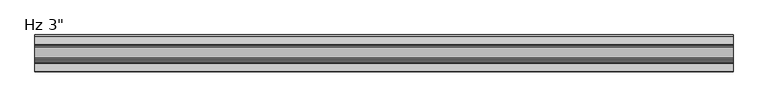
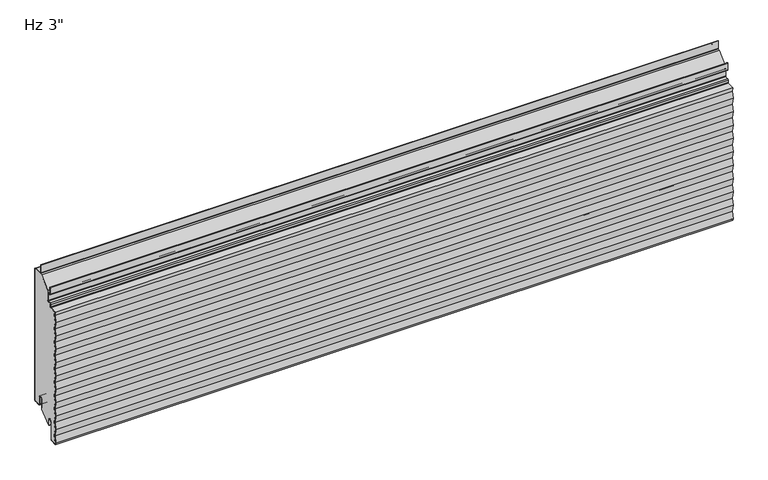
"""IFC4 building model written with IfcOpenShell, lengths in millimetres: plate geometry."""

from ifc_helpers import new_model, si_unit, point, frame, frame_2d, origin, place, context, project, spatial, polyline, circle_curve, ellipse_curve, trimmed, segment, composite_curve, outline, extrude, source, transform, mapped, element, save
from ifc_brep_helpers import plane_surface, cylinder_surface, revolved_surface, extruded_surface, advanced_brep


def plate_805d2d42(model_context):
    return source(origin(), model_context, "Body", "SolidModel", [
        extrude(outline(composite_curve([segment(trimmed(circle_curve(frame_2d((-21.43125, 19.05)), 4.96875), [point((-16.4625, 19.05))], [point((-26.4, 19.05))], True, "CARTESIAN"), True, "CONTINUOUS"), segment(polyline([(-26.4, 19.05), (-26.4, -3.1323422), (-49.2157227, -23.01875), (-50.8, -23.01875), (-50.8, -13.5080174), (-51.59375, -13.5080174), (-51.3875, -11.9205174)]), True, "CONTINUOUS"), segment(trimmed(circle_curve(frame_2d((-56.35625, -11.9205174)), 4.96875), [point((-51.3875, -11.9205174))], [point((-61.325, -11.9205174))], True, "CARTESIAN"), True, "CONTINUOUS"), segment(polyline([(-61.325, -11.9205174), (-61.325, -50.1038221)]), True, "CONTINUOUS"), segment(trimmed(circle_curve(frame_2d((-62.70625, -50.1038221)), 1.38125), [point((-61.325, -50.1038221))], [point((-62.633961, -51.4831791))], False, "CARTESIAN"), True, "CONTINUOUS"), segment(polyline([(-62.633961, -51.4831791), (-73.746461, -52.0655606)]), True, "CONTINUOUS"), segment(trimmed(circle_curve(frame_2d((-73.81875, -50.6862035)), 1.38125), [point((-73.746461, -52.0655606))], [point((-75.1310452, -51.1171708))], False, "CARTESIAN"), True, "CONTINUOUS"), segment(polyline([(-75.1310452, -51.1171708), (-75.4936034, -48.8511825), (-73.0552034, -33.6111825), (-75.4936034, -18.3711825), (-73.0552034, -3.1311825), (-75.4936034, 12.1088175), (-73.0552034, 27.3488175), (-75.4936034, 42.5888175), (-73.0552034, 57.8288175), (-75.4936034, 73.0688175), (-73.0552034, 88.3088175), (-75.4936034, 103.5488175), (-73.0552034, 118.7888175), (-75.4936034, 134.0288175), (-73.0552034, 149.2688175), (-75.4936034, 164.5088175), (-73.0552034, 179.7488175), (-75.4936034, 194.9888175), (-73.0552034, 210.2288175), (-75.4936034, 225.4688175), (-73.0552034, 240.7088175), (-74.1475009, 247.5356771), (-60.1895807, 248.2671807)]), True, "CONTINUOUS"), segment(trimmed(circle_curve(frame_2d((-60.325, 250.8511347)), 2.5875), [point((-60.1895807, 248.2671807))], [point((-57.7375, 250.8511347))], True, "CARTESIAN"), True, "CONTINUOUS"), segment(polyline([(-57.7375, 250.8511347), (-57.7375, 255.4824411)]), True, "CONTINUOUS"), segment(trimmed(circle_curve(frame_2d((-56.35625, 255.4824411)), 1.38125), [point((-57.7375, 255.4824411))], [point((-56.428539, 256.8617981))], False, "CARTESIAN"), True, "CONTINUOUS"), segment(polyline([(-56.428539, 256.8617981), (-50.6645807, 257.1638744)]), True, "CONTINUOUS"), segment(trimmed(circle_curve(frame_2d((-50.8, 259.7478283)), 2.5875), [point((-50.6645807, 257.1638744))], [point((-48.2125, 259.7478283))], True, "CARTESIAN"), True, "CONTINUOUS"), segment(polyline([(-48.2125, 259.7478283), (-48.2125, 282.1892934), (-24.9057308, 303.00625), (-2.38125, 303.00625)]), True, "CONTINUOUS"), segment(trimmed(circle_curve(frame_2d((-2.38125, 301.625)), 1.38125), [point((-2.38125, 303.00625))], [point((-1.0, 301.625))], False, "CARTESIAN"), True, "CONTINUOUS"), segment(polyline([(-1.0, 301.625), (-1.0, 3.175)]), True, "CONTINUOUS"), segment(trimmed(circle_curve(frame_2d((-2.38125, 3.175)), 1.38125), [point((-1.0, 3.175))], [point((-2.38125, 1.79375))], False, "CARTESIAN"), True, "CONTINUOUS"), segment(polyline([(-2.38125, 1.79375), (-15.08125, 1.79375)]), True, "CONTINUOUS"), segment(trimmed(circle_curve(frame_2d((-15.08125, 3.175)), 1.38125), [point((-15.08125, 1.79375))], [point((-16.4625, 3.175))], False, "CARTESIAN"), True, "CONTINUOUS"), segment(polyline([(-16.4625, 3.175), (-16.4625, 19.05)]), True, "CONTINUOUS")], self_intersect=False)), frame((-730.0, 0.0, 0.0), z_axis=(1.0, 0.0, 0.0), x_axis=(0.0, 1.0, 0.0)), (0.0, 0.0, 1.0), 1460.0),
        extrude(outline(composite_curve([segment(polyline([(-25.4, 0.79375), (-26.4, 0.79375), (-26.4, 19.05)]), True, "CONTINUOUS"), segment(trimmed(circle_curve(frame_2d((-21.43125, 19.05)), 4.96875), [point((-26.4, 19.05))], [point((-16.4625, 19.05))], False, "CARTESIAN"), True, "CONTINUOUS"), segment(polyline([(-16.4625, 19.05), (-16.4625, 3.175)]), True, "CONTINUOUS"), segment(trimmed(circle_curve(frame_2d((-15.08125, 3.175)), 1.38125), [point((-16.4625, 3.175))], [point((-15.08125, 1.79375))], True, "CARTESIAN"), True, "CONTINUOUS"), segment(polyline([(-15.08125, 1.79375), (-2.38125, 1.79375)]), True, "CONTINUOUS"), segment(trimmed(circle_curve(frame_2d((-2.38125, 3.175)), 1.38125), [point((-2.38125, 1.79375))], [point((-1.0, 3.175))], True, "CARTESIAN"), True, "CONTINUOUS"), segment(polyline([(-1.0, 3.175), (-1.0, 301.625)]), True, "CONTINUOUS"), segment(trimmed(circle_curve(frame_2d((-2.38125, 301.625)), 1.38125), [point((-1.0, 301.625))], [point((-2.38125, 303.00625))], True, "CARTESIAN"), True, "CONTINUOUS"), segment(polyline([(-2.38125, 303.00625), (-19.446875, 303.00625)]), True, "CONTINUOUS"), segment(trimmed(circle_curve(frame_2d((-19.446875, 305.59375)), 2.5875), [point((-19.446875, 303.00625))], [point((-22.034375, 305.59375))], False, "CARTESIAN"), True, "CONTINUOUS"), segment(polyline([(-22.034375, 305.59375), (-22.034375, 323.05625), (-21.034375, 323.05625), (-21.034375, 305.59375)]), True, "CONTINUOUS"), segment(trimmed(circle_curve(frame_2d((-19.446875, 305.59375)), 1.5875), [point((-21.034375, 305.59375))], [point((-19.446875, 304.00625))], True, "CARTESIAN"), True, "CONTINUOUS"), segment(polyline([(-19.446875, 304.00625), (-2.38125, 304.00625)]), True, "CONTINUOUS"), segment(trimmed(circle_curve(frame_2d((-2.38125, 301.625)), 2.38125), [point((-2.38125, 304.00625))], [point((0.0, 301.625))], False, "CARTESIAN"), True, "CONTINUOUS"), segment(polyline([(0.0, 301.625), (0.0, 3.175)]), True, "CONTINUOUS"), segment(trimmed(circle_curve(frame_2d((-2.38125, 3.175)), 2.38125), [point((0.0, 3.175))], [point((-2.38125, 0.79375))], False, "CARTESIAN"), True, "CONTINUOUS"), segment(polyline([(-2.38125, 0.79375), (-15.08125, 0.79375)]), True, "CONTINUOUS"), segment(trimmed(circle_curve(frame_2d((-15.08125, 3.175)), 2.38125), [point((-15.08125, 0.79375))], [point((-17.4625, 3.175))], False, "CARTESIAN"), True, "CONTINUOUS"), segment(polyline([(-17.4625, 3.175), (-17.4625, 19.05)]), True, "CONTINUOUS"), segment(trimmed(circle_curve(frame_2d((-21.43125, 19.05)), 3.96875), [point((-17.4625, 19.05))], [point((-25.4, 19.05))], True, "CARTESIAN"), True, "CONTINUOUS"), segment(polyline([(-25.4, 19.05), (-25.4, 0.79375)]), True, "CONTINUOUS")], self_intersect=False)), frame((-730.0, 0.0, 0.0), z_axis=(1.0, 0.0, 0.0), x_axis=(0.0, 1.0, 0.0)), (0.0, 0.0, 1.0), 1460.0),
        advanced_brep(
        [(-730.0, -50.8, -23.2314549), (-730.0, -52.3875, -23.2314549), (-730.0, -52.3875, -11.9205174), (-730.0, -60.325, -11.9205174), (-730.0, -60.325, -50.1038221), (-730.0, -62.581625, -52.4818086), (-730.0, -76.7543553, -53.22457), (-730.0, -77.4509395, -48.8709186), (-730.0, -75.0125395, -33.6309186), (-730.0, -77.4509395, -18.3909186), (-730.0, -75.0125395, -3.1509186), (-730.0, -77.4509395, 12.0890814), (-730.0, -75.0125395, 27.3290814), (-730.0, -77.4509395, 42.5690814), (-730.0, -75.0125395, 57.8090814), (-730.0, -77.4509395, 73.0490814), (-730.0, -75.0125395, 88.2890814), (-730.0, -77.4509395, 103.5290814), (-730.0, -75.0125395, 118.7690814), (-730.0, -77.4509395, 134.0090814), (-730.0, -75.0125395, 149.2490814), (-730.0, -77.4509395, 164.4890814), (-730.0, -75.0125395, 179.7290814), (-730.0, -77.4509395, 194.9690814), (-730.0, -75.0125395, 210.2090814), (-730.0, -77.4347341, 225.3477976), (-730.0, -75.0125395, 240.4865139), (-730.0, -76.2827208, 248.4251473), (-730.0, -60.2419167, 249.2658103), (-730.0, -58.7375, 250.8511347), (-730.0, -58.7375, 255.4824411), (-730.0, -56.480875, 257.8604276), (-730.0, -50.7169167, 258.1625039), (-730.0, -49.2125, 259.7478283), (-730.0, -49.2125, 274.6232326), (-730.0, -50.8, 276.2107326), (-730.0, -54.9671875, 276.2107326), (-730.0, -57.3484375, 278.5919826), (-730.0, -57.3484375, 293.0836032), (-730.0, -55.5546875, 293.0836032), (-730.0, -55.5546875, 283.3544826), (-730.0, -56.3484375, 283.3544826), (-730.0, -56.3484375, 278.5919826), (-730.0, -54.9671875, 277.2107326), (-730.0, -50.8, 277.2107326), (-730.0, -48.2125, 274.6232326), (-730.0, -48.2125, 259.7478283), (-730.0, -50.6645807, 257.1638744), (-730.0, -56.428539, 256.8617981), (-730.0, -57.7375, 255.4824411), (-730.0, -57.7375, 250.8511347), (-730.0, -60.1895807, 248.2671807), (-730.0, -75.1195357, 247.4847349), (-730.0, -73.9998204, 240.4865139), (-730.0, -76.422015, 225.3477976), (-730.0, -73.9998204, 210.2090814), (-730.0, -76.4382204, 194.9690814), (-730.0, -73.9998204, 179.7290814), (-730.0, -76.4382204, 164.4890814), (-730.0, -73.9998204, 149.2490814), (-730.0, -76.4382204, 134.0090814), (-730.0, -73.9998204, 118.7690814), (-730.0, -76.4382204, 103.5290814), (-730.0, -73.9998204, 88.2890814), (-730.0, -76.4382204, 73.0490814), (-730.0, -73.9998204, 57.8090814), (-730.0, -76.4382204, 42.5690814), (-730.0, -73.9998204, 27.3290814), (-730.0, -76.4382204, 12.0890814), (-730.0, -73.9998204, -3.1509186), (-730.0, -76.4382204, -18.3909186), (-730.0, -73.9998204, -33.6309186), (-730.0, -76.4382204, -48.8709186), (-730.0, -75.9089447, -52.1788915), (-730.0, -62.633961, -51.4831791), (-730.0, -61.325, -50.1038221), (-730.0, -61.325, -11.9205174), (-730.0, -51.3875, -11.9205174), (-730.0, -51.59375, -13.5080174), (-730.0, -50.8, -13.5080174), (730.0, -50.8, -23.2314549), (730.0, -50.8, -13.5080174), (730.0, -51.59375, -13.5080174), (730.0, -51.3875, -11.9205174), (730.0, -61.325, -11.9205174), (730.0, -61.325, -50.1038221), (730.0, -62.633961, -51.4831791), (730.0, -75.9089447, -52.1788915), (730.0, -76.4382204, -48.8709186), (730.0, -73.9998204, -33.6309186), (730.0, -76.4382204, -18.3909186), (730.0, -73.9998204, -3.1509186), (730.0, -76.4382204, 12.0890814), (730.0, -73.9998204, 27.3290814), (730.0, -76.4382204, 42.5690814), (730.0, -73.9998204, 57.8090814), (730.0, -76.4382204, 73.0490814), (730.0, -73.9998204, 88.2890814), (730.0, -76.4382204, 103.5290814), (730.0, -73.9998204, 118.7690814), (730.0, -76.4382204, 134.0090814), (730.0, -73.9998204, 149.2490814), (730.0, -76.4382204, 164.4890814), (730.0, -73.9998204, 179.7290814), (730.0, -76.4382204, 194.9690814), (730.0, -73.9998204, 210.2090814), (730.0, -76.422015, 225.3477976), (730.0, -73.9998204, 240.4865139), (730.0, -75.1195357, 247.4847349), (730.0, -60.1895807, 248.2671807), (730.0, -57.7375, 250.8511347), (730.0, -57.7375, 255.4824411), (730.0, -56.428539, 256.8617981), (730.0, -50.6645807, 257.1638744), (730.0, -48.2125, 259.7478283), (730.0, -48.2125, 274.6232326), (730.0, -50.8, 277.2107326), (730.0, -54.9671875, 277.2107326), (730.0, -56.3484375, 278.5919826), (730.0, -56.3484375, 283.3544826), (730.0, -55.5546875, 283.3544826), (730.0, -55.5546875, 293.0836032), (730.0, -57.3484375, 293.0836032), (730.0, -57.3484375, 278.5919826), (730.0, -54.9671875, 276.2107326), (730.0, -50.8, 276.2107326), (730.0, -49.2125, 274.6232326), (730.0, -49.2125, 259.7478283), (730.0, -50.7169167, 258.1625039), (730.0, -56.480875, 257.8604276), (730.0, -58.7375, 255.4824411), (730.0, -58.7375, 250.8511347), (730.0, -60.2419167, 249.2658103), (730.0, -76.2827208, 248.4251473), (730.0, -75.0125395, 240.4865139), (730.0, -77.4347341, 225.3477976), (730.0, -75.0125395, 210.2090814), (730.0, -77.4509395, 194.9690814), (730.0, -75.0125395, 179.7290814), (730.0, -77.4509395, 164.4890814), (730.0, -75.0125395, 149.2490814), (730.0, -77.4509395, 134.0090814), (730.0, -75.0125395, 118.7690814), (730.0, -77.4509395, 103.5290814), (730.0, -75.0125395, 88.2890814), (730.0, -77.4509395, 73.0490814), (730.0, -75.0125395, 57.8090814), (730.0, -77.4509395, 42.5690814), (730.0, -75.0125395, 27.3290814), (730.0, -77.4509395, 12.0890814), (730.0, -75.0125395, -3.1509186), (730.0, -77.4509395, -18.3909186), (730.0, -75.0125395, -33.6309186), (730.0, -77.4509395, -48.8709186), (730.0, -76.7543553, -53.22457), (730.0, -62.581625, -52.4818086), (730.0, -60.325, -50.1038221), (730.0, -60.325, -11.9205174), (730.0, -52.3875, -11.9205174), (730.0, -52.3875, -23.2314549)],
        [
            (0, 1, circle_curve(frame((-730.0, -51.59375, -23.2314549), z_axis=(-1.0, 0.0, 0.0), x_axis=(0.0, 0.0, 1.0)), 0.79375)),
            (1, 2),
            (2, 3, circle_curve(frame((-730.0, -56.35625, -11.9205174), z_axis=(1.0, 0.0, 0.0), x_axis=(0.0, 0.0, 1.0)), 3.96875)),
            (3, 4),
            (4, 5, circle_curve(frame((-730.0, -62.70625, -50.1038221), z_axis=(-1.0, 0.0, 0.0), x_axis=(0.0, 0.0, 1.0)), 2.38125)),
            (5, 6),
            (6, 7),
            (7, 8),
            (8, 9),
            (9, 10),
            (10, 11),
            (11, 12),
            (12, 13),
            (13, 14),
            (14, 15),
            (15, 16),
            (16, 17),
            (17, 18),
            (18, 19),
            (19, 20),
            (20, 21),
            (21, 22),
            (22, 23),
            (23, 24),
            (24, 25),
            (25, 26),
            (26, 27),
            (27, 28),
            (28, 29, circle_curve(frame((-730.0, -60.325, 250.8511347), z_axis=(1.0, 0.0, 0.0), x_axis=(0.0, 0.0, 1.0)), 1.5875)),
            (29, 30),
            (30, 31, circle_curve(frame((-730.0, -56.35625, 255.4824411), z_axis=(-1.0, 0.0, 0.0), x_axis=(0.0, 0.0, 1.0)), 2.38125)),
            (31, 32),
            (32, 33, circle_curve(frame((-730.0, -50.8, 259.7478283), z_axis=(1.0, 0.0, 0.0), x_axis=(0.0, 0.0, 1.0)), 1.5875)),
            (33, 34),
            (34, 35, circle_curve(frame((-730.0, -50.8, 274.6232326), z_axis=(1.0, 0.0, 0.0), x_axis=(0.0, 0.0, 1.0)), 1.5875)),
            (35, 36),
            (36, 37, circle_curve(frame((-730.0, -54.9671875, 278.5919826), z_axis=(-1.0, 0.0, 0.0), x_axis=(0.0, 0.0, 1.0)), 2.38125)),
            (37, 38),
            (38, 39, ellipse_curve(frame((-730.0, -56.4515625, 293.0836032), z_axis=(-1.0, 0.0, 0.0), x_axis=(0.0, 1.0, 0.0)), 0.896875, 0.7852275)),
            (39, 40),
            (40, 41),
            (41, 42),
            (42, 43, circle_curve(frame((-730.0, -54.9671875, 278.5919826), z_axis=(1.0, 0.0, 0.0), x_axis=(0.0, 0.0, 1.0)), 1.38125)),
            (43, 44),
            (44, 45, circle_curve(frame((-730.0, -50.8, 274.6232326), z_axis=(-1.0, 0.0, 0.0), x_axis=(0.0, 0.0, 1.0)), 2.5875)),
            (45, 46),
            (46, 47, circle_curve(frame((-730.0, -50.8, 259.7478283), z_axis=(-1.0, 0.0, 0.0), x_axis=(0.0, 0.0, 1.0)), 2.5875)),
            (47, 48),
            (48, 49, circle_curve(frame((-730.0, -56.35625, 255.4824411), z_axis=(1.0, 0.0, 0.0), x_axis=(0.0, 0.0, 1.0)), 1.38125)),
            (49, 50),
            (50, 51, circle_curve(frame((-730.0, -60.325, 250.8511347), z_axis=(-1.0, 0.0, 0.0), x_axis=(0.0, 0.0, 1.0)), 2.5875)),
            (51, 52),
            (52, 53),
            (53, 54),
            (54, 55),
            (55, 56),
            (56, 57),
            (57, 58),
            (58, 59),
            (59, 60),
            (60, 61),
            (61, 62),
            (62, 63),
            (63, 64),
            (64, 65),
            (65, 66),
            (66, 67),
            (67, 68),
            (68, 69),
            (69, 70),
            (70, 71),
            (71, 72),
            (72, 73),
            (73, 74),
            (74, 75, circle_curve(frame((-730.0, -62.70625, -50.1038221), z_axis=(1.0, 0.0, 0.0), x_axis=(0.0, 0.0, 1.0)), 1.38125)),
            (75, 76),
            (76, 77, circle_curve(frame((-730.0, -56.35625, -11.9205174), z_axis=(-1.0, 0.0, 0.0), x_axis=(0.0, 0.0, 1.0)), 4.96875)),
            (77, 78),
            (78, 79),
            (79, 0),
            (80, 81),
            (81, 82),
            (82, 83),
            (83, 84, circle_curve(frame((730.0, -56.35625, -11.9205174), z_axis=(1.0, 0.0, 0.0), x_axis=(0.0, 0.0, 1.0)), 4.96875)),
            (84, 85),
            (85, 86, circle_curve(frame((730.0, -62.70625, -50.1038221), z_axis=(-1.0, 0.0, 0.0), x_axis=(0.0, 0.0, 1.0)), 1.38125)),
            (86, 87),
            (87, 88),
            (88, 89),
            (89, 90),
            (90, 91),
            (91, 92),
            (92, 93),
            (93, 94),
            (94, 95),
            (95, 96),
            (96, 97),
            (97, 98),
            (98, 99),
            (99, 100),
            (100, 101),
            (101, 102),
            (102, 103),
            (103, 104),
            (104, 105),
            (105, 106),
            (106, 107),
            (107, 108),
            (108, 109),
            (109, 110, circle_curve(frame((730.0, -60.325, 250.8511347), z_axis=(1.0, 0.0, 0.0), x_axis=(0.0, 0.0, 1.0)), 2.5875)),
            (110, 111),
            (111, 112, circle_curve(frame((730.0, -56.35625, 255.4824411), z_axis=(-1.0, 0.0, 0.0), x_axis=(0.0, 0.0, 1.0)), 1.38125)),
            (112, 113),
            (113, 114, circle_curve(frame((730.0, -50.8, 259.7478283), z_axis=(1.0, 0.0, 0.0), x_axis=(0.0, 0.0, 1.0)), 2.5875)),
            (114, 115),
            (115, 116, circle_curve(frame((730.0, -50.8, 274.6232326), z_axis=(1.0, 0.0, 0.0), x_axis=(0.0, 0.0, 1.0)), 2.5875)),
            (116, 117),
            (117, 118, circle_curve(frame((730.0, -54.9671875, 278.5919826), z_axis=(-1.0, 0.0, 0.0), x_axis=(0.0, 0.0, 1.0)), 1.38125)),
            (118, 119),
            (119, 120),
            (120, 121),
            (121, 122, ellipse_curve(frame((730.0, -56.4515625, 293.0836032), z_axis=(1.0, 0.0, 0.0), x_axis=(0.0, 1.0, 0.0)), 0.896875, 0.7852275)),
            (122, 123),
            (123, 124, circle_curve(frame((730.0, -54.9671875, 278.5919826), z_axis=(1.0, 0.0, 0.0), x_axis=(0.0, 0.0, 1.0)), 2.38125)),
            (124, 125),
            (125, 126, circle_curve(frame((730.0, -50.8, 274.6232326), z_axis=(-1.0, 0.0, 0.0), x_axis=(0.0, 0.0, 1.0)), 1.5875)),
            (126, 127),
            (127, 128, circle_curve(frame((730.0, -50.8, 259.7478283), z_axis=(-1.0, 0.0, 0.0), x_axis=(0.0, 0.0, 1.0)), 1.5875)),
            (128, 129),
            (129, 130, circle_curve(frame((730.0, -56.35625, 255.4824411), z_axis=(1.0, 0.0, 0.0), x_axis=(0.0, 0.0, 1.0)), 2.38125)),
            (130, 131),
            (131, 132, circle_curve(frame((730.0, -60.325, 250.8511347), z_axis=(-1.0, 0.0, 0.0), x_axis=(0.0, 0.0, 1.0)), 1.5875)),
            (132, 133),
            (133, 134),
            (134, 135),
            (135, 136),
            (136, 137),
            (137, 138),
            (138, 139),
            (139, 140),
            (140, 141),
            (141, 142),
            (142, 143),
            (143, 144),
            (144, 145),
            (145, 146),
            (146, 147),
            (147, 148),
            (148, 149),
            (149, 150),
            (150, 151),
            (151, 152),
            (152, 153),
            (153, 154),
            (154, 155),
            (155, 156, circle_curve(frame((730.0, -62.70625, -50.1038221), z_axis=(1.0, 0.0, 0.0), x_axis=(0.0, 0.0, 1.0)), 2.38125)),
            (156, 157),
            (157, 158, circle_curve(frame((730.0, -56.35625, -11.9205174), z_axis=(-1.0, 0.0, 0.0), x_axis=(0.0, 0.0, 1.0)), 3.96875)),
            (158, 159),
            (159, 80, circle_curve(frame((730.0, -51.59375, -23.2314549), z_axis=(1.0, 0.0, 0.0), x_axis=(0.0, 0.0, 1.0)), 0.79375)),
            (58, 102),
            (101, 59),
            (100, 60),
            (99, 61),
            (73, 87),
            (86, 74),
            (85, 75),
            (84, 76),
            (83, 77),
            (78, 82),
            (81, 79),
            (40, 120),
            (119, 41),
            (39, 121),
            (38, 122),
            (27, 133),
            (132, 28),
            (51, 109),
            (108, 52),
            (24, 136),
            (135, 25),
            (54, 106),
            (105, 55),
            (104, 56),
            (103, 57),
            (21, 139),
            (138, 22),
            (137, 23),
            (26, 134),
            (107, 53),
            (20, 140),
            (18, 142),
            (141, 19),
            (16, 144),
            (143, 17),
            (14, 146),
            (145, 15),
            (12, 148),
            (147, 13),
            (10, 150),
            (149, 11),
            (8, 152),
            (151, 9),
            (6, 154),
            (153, 7),
            (71, 89),
            (88, 72),
            (69, 91),
            (90, 70),
            (67, 93),
            (92, 68),
            (65, 95),
            (94, 66),
            (63, 97),
            (96, 64),
            (98, 62),
            (50, 110),
            (48, 112),
            (111, 49),
            (46, 114),
            (113, 47),
            (42, 118),
            (117, 43),
            (44, 116),
            (115, 45),
            (37, 123),
            (35, 125),
            (124, 36),
            (33, 127),
            (126, 34),
            (31, 129),
            (128, 32),
            (29, 131),
            (130, 30),
            (5, 155),
            (3, 157),
            (156, 4),
            (1, 159),
            (158, 2),
            (80, 0),
        ],
        [
            plane_surface(frame((-730.0, -76.2, 152.4), z_axis=(-1.0, 0.0, 0.0), x_axis=(0.0, -1.0, 0.0))),
            plane_surface(frame((730.0, -76.2, 152.4), z_axis=(1.0, 0.0, 0.0), x_axis=(0.0, -1.0, 0.0))),
            plane_surface(frame((-730.0, -73.9998204, 149.2490814), z_axis=(0.0, 0.9874406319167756, 0.15799050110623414), x_axis=(1.0, 0.0, 0.0))),
            plane_surface(frame((-730.0, -76.4382204, 134.0090814), z_axis=(0.0, 0.987440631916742, -0.15799050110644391), x_axis=(1.0, 0.0, 0.0))),
            plane_surface(frame((-730.0, -73.9998204, 118.7690814), z_axis=(0.0, 0.987440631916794, 0.1579905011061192), x_axis=(1.0, 0.0, 0.0))),
            plane_surface(frame((-730.0, -62.633961, -51.4831791), z_axis=(0.0, -0.052335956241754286, 0.9986295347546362), x_axis=(1.0, 0.0, 0.0))),
            revolved_surface(polyline([(730.0, -62.70625, -48.7225721), (-730.0, -62.70625, -48.7225721)]), (-730.0, -62.70625, -50.1038221), (1.0, 0.0, 0.0)),
            plane_surface(frame((-730.0, -61.325, -11.9205174), z_axis=(0.0, -1.0, 0.0), x_axis=(1.0, 0.0, 0.0))),
            cylinder_surface(frame((-730.0, -56.35625, -11.9205174), z_axis=(-1.0, 0.0, 0.0), x_axis=(0.0, 0.0, 1.0)), 4.96875),
            plane_surface(frame((-730.0, -50.8, -13.5080174), z_axis=(0.0, 0.0, 1.0), x_axis=(1.0, 0.0, 0.0))),
            plane_surface(frame((-730.0, -51.59375, -13.5080174), z_axis=(0.0, 0.9916655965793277, -0.12883844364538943), x_axis=(1.0, 0.0, 0.0))),
            plane_surface(frame((-730.0, -56.3484375, 283.3544826), z_axis=(0.0, 0.0, -1.0), x_axis=(1.0, 0.0, 0.0))),
            plane_surface(frame((-730.0, -55.5546875, 283.3544826), z_axis=(0.0, 1.0, 0.0), x_axis=(1.0, 0.0, 0.0))),
            extruded_surface(trimmed(ellipse_curve(frame((-730.0, -56.4515625, 293.0836032), z_axis=(1.0, 0.0, 0.0), x_axis=(0.0, 1.0, 0.0)), 0.896875, 0.7852275), [point((-730.0, -55.5546875, 293.0836032))], [point((-730.0, -57.3484375, 293.0836032))], True, "CARTESIAN"), (1460.0, 0.0, 0.0), 1460.0),
            plane_surface(frame((-730.0, -60.2419167, 249.2658103), z_axis=(0.0, -0.052335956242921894, 0.998629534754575), x_axis=(1.0, 0.0, 0.0))),
            plane_surface(frame((-730.0, -75.1195357, 247.4847349), z_axis=(0.0, 0.05233595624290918, -0.9986295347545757), x_axis=(1.0, 0.0, 0.0))),
            plane_surface(frame((-730.0, -77.4347341, 225.3477976), z_axis=(0.0, -0.9874406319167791, -0.15799050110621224), x_axis=(1.0, 0.0, 0.0))),
            plane_surface(frame((-730.0, -73.9998204, 210.2090814), z_axis=(0.0, 0.9874406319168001, 0.15799050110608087), x_axis=(1.0, 0.0, 0.0))),
            plane_surface(frame((-730.0, -76.4382204, 194.9690814), z_axis=(0.0, 0.9874406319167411, -0.15799050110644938), x_axis=(1.0, 0.0, 0.0))),
            plane_surface(frame((-730.0, -73.9998204, 179.7290814), z_axis=(0.0, 0.987440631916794, 0.1579905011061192), x_axis=(1.0, 0.0, 0.0))),
            plane_surface(frame((-730.0, -76.4382204, 164.4890814), z_axis=(0.0, 0.987440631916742, -0.15799050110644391), x_axis=(1.0, 0.0, 0.0))),
            plane_surface(frame((-730.0, -75.0125395, 179.7290814), z_axis=(0.0, -0.9874406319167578, 0.15799050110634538), x_axis=(1.0, 0.0, 0.0))),
            plane_surface(frame((-730.0, -77.4509395, 194.9690814), z_axis=(0.0, -0.9874406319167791, -0.15799050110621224), x_axis=(1.0, 0.0, 0.0))),
            plane_surface(frame((-730.0, -75.0125395, 210.2090814), z_axis=(0.0, -0.9874406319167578, 0.15799050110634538), x_axis=(1.0, 0.0, 0.0))),
            plane_surface(frame((-730.0, -76.2827208, 248.4251473), z_axis=(0.0, -0.9874406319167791, -0.15799050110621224), x_axis=(1.0, 0.0, 0.0))),
            plane_surface(frame((-730.0, -73.9998204, 240.4865139), z_axis=(0.0, 0.9874406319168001, 0.15799050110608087), x_axis=(1.0, 0.0, 0.0))),
            plane_surface(frame((-730.0, -76.422015, 225.3477976), z_axis=(0.0, 0.9874406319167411, -0.15799050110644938), x_axis=(1.0, 0.0, 0.0))),
            plane_surface(frame((-730.0, -75.0125395, 240.4865139), z_axis=(0.0, -0.9874406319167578, 0.15799050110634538), x_axis=(1.0, 0.0, 0.0))),
            plane_surface(frame((-730.0, -77.4509395, 164.4890814), z_axis=(0.0, -0.9874406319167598, -0.15799050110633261), x_axis=(1.0, 0.0, 0.0))),
            plane_surface(frame((-730.0, -77.4509395, 134.0090814), z_axis=(0.0, -0.9874406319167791, -0.15799050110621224), x_axis=(1.0, 0.0, 0.0))),
            plane_surface(frame((-730.0, -75.0125395, 149.2490814), z_axis=(0.0, -0.9874406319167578, 0.15799050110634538), x_axis=(1.0, 0.0, 0.0))),
            plane_surface(frame((-730.0, -77.4509395, 103.5290814), z_axis=(0.0, -0.9874406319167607, -0.15799050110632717), x_axis=(1.0, 0.0, 0.0))),
            plane_surface(frame((-730.0, -77.4509395, 73.0490814), z_axis=(0.0, -0.9874406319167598, -0.15799050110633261), x_axis=(1.0, 0.0, 0.0))),
            plane_surface(frame((-730.0, -75.0125395, 88.2890814), z_axis=(0.0, -0.9874406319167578, 0.15799050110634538), x_axis=(1.0, 0.0, 0.0))),
            plane_surface(frame((-730.0, -75.0125395, 118.7690814), z_axis=(0.0, -0.9874406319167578, 0.15799050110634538), x_axis=(1.0, 0.0, 0.0))),
            plane_surface(frame((-730.0, -77.4509395, 42.5690814), z_axis=(0.0, -0.9874406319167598, -0.15799050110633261), x_axis=(1.0, 0.0, 0.0))),
            plane_surface(frame((-730.0, -77.4509395, 12.0890814), z_axis=(0.0, -0.9874406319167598, -0.15799050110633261), x_axis=(1.0, 0.0, 0.0))),
            plane_surface(frame((-730.0, -75.0125395, 27.3290814), z_axis=(0.0, -0.9874406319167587, 0.15799050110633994), x_axis=(1.0, 0.0, 0.0))),
            plane_surface(frame((-730.0, -75.0125395, 57.8090814), z_axis=(0.0, -0.9874406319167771, 0.157990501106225), x_axis=(1.0, 0.0, 0.0))),
            plane_surface(frame((-730.0, -77.4509395, -18.3909186), z_axis=(0.0, -0.9874406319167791, -0.15799050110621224), x_axis=(1.0, 0.0, 0.0))),
            plane_surface(frame((-730.0, -77.4509395, -48.8709186), z_axis=(0.0, -0.9874406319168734, -0.15799050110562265), x_axis=(1.0, 0.0, 0.0))),
            plane_surface(frame((-730.0, -75.0125395, -33.6309186), z_axis=(0.0, -0.9874406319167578, 0.15799050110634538), x_axis=(1.0, 0.0, 0.0))),
            plane_surface(frame((-730.0, -75.0125395, -3.1509186), z_axis=(0.0, -0.9874406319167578, 0.15799050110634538), x_axis=(1.0, 0.0, 0.0))),
            plane_surface(frame((-730.0, -76.4382204, -48.8709186), z_axis=(0.0, 0.9874406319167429, -0.15799050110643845), x_axis=(1.0, 0.0, 0.0))),
            plane_surface(frame((-730.0, -76.4382204, -18.3909186), z_axis=(0.0, 0.987440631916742, -0.15799050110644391), x_axis=(1.0, 0.0, 0.0))),
            plane_surface(frame((-730.0, -73.9998204, -33.6309186), z_axis=(0.0, 0.987440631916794, 0.1579905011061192), x_axis=(1.0, 0.0, 0.0))),
            plane_surface(frame((-730.0, -75.9089447, -52.1788915), z_axis=(0.0, 0.987440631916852, 0.1579905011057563), x_axis=(1.0, 0.0, 0.0))),
            plane_surface(frame((-730.0, -76.4382204, 12.0890814), z_axis=(0.0, 0.987440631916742, -0.15799050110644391), x_axis=(1.0, 0.0, 0.0))),
            plane_surface(frame((-730.0, -76.4382204, 42.5690814), z_axis=(0.0, 0.9874406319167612, -0.1579905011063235), x_axis=(1.0, 0.0, 0.0))),
            plane_surface(frame((-730.0, -73.9998204, 27.3290814), z_axis=(0.0, 0.9874406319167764, 0.15799050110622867), x_axis=(1.0, 0.0, 0.0))),
            plane_surface(frame((-730.0, -73.9998204, -3.1509186), z_axis=(0.0, 0.9874406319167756, 0.15799050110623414), x_axis=(1.0, 0.0, 0.0))),
            plane_surface(frame((-730.0, -76.4382204, 73.0490814), z_axis=(0.0, 0.9874406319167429, -0.15799050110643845), x_axis=(1.0, 0.0, 0.0))),
            plane_surface(frame((-730.0, -76.4382204, 103.5290814), z_axis=(0.0, 0.987440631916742, -0.15799050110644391), x_axis=(1.0, 0.0, 0.0))),
            plane_surface(frame((-730.0, -73.9998204, 88.2890814), z_axis=(0.0, 0.9874406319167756, 0.15799050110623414), x_axis=(1.0, 0.0, 0.0))),
            plane_surface(frame((-730.0, -73.9998204, 57.8090814), z_axis=(0.0, 0.9874406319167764, 0.15799050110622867), x_axis=(1.0, 0.0, 0.0))),
            cylinder_surface(frame((-730.0, -60.325, 250.8511347), z_axis=(-1.0, 0.0, 0.0), x_axis=(0.0, 0.0, 1.0)), 2.5875),
            revolved_surface(polyline([(730.0, -56.35625, 256.8636911), (-730.0, -56.35625, 256.8636911)]), (-730.0, -56.35625, 255.4824411), (1.0, 0.0, 0.0)),
            cylinder_surface(frame((-730.0, -50.8, 259.7478283), z_axis=(-1.0, 0.0, 0.0), x_axis=(0.0, 0.0, 1.0)), 2.5875),
            plane_surface(frame((-730.0, -56.428539, 256.8617981), z_axis=(0.0, 0.0523359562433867, -0.9986295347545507), x_axis=(1.0, 0.0, 0.0))),
            plane_surface(frame((-730.0, -57.7375, 250.8511347), z_axis=(0.0, 1.0, 0.0), x_axis=(1.0, 0.0, 0.0))),
            revolved_surface(polyline([(730.0, -54.9671875, 279.9732326), (-730.0, -54.9671875, 279.9732326)]), (-730.0, -54.9671875, 278.5919826), (1.0, 0.0, 0.0)),
            cylinder_surface(frame((-730.0, -50.8, 274.6232326), z_axis=(-1.0, 0.0, 0.0), x_axis=(0.0, 0.0, 1.0)), 2.5875),
            plane_surface(frame((-730.0, -50.8, 277.2107326), z_axis=(0.0, 0.0, 1.0), x_axis=(1.0, 0.0, 0.0))),
            plane_surface(frame((-730.0, -56.3484375, 278.5919826), z_axis=(0.0, 1.0, 0.0), x_axis=(1.0, 0.0, 0.0))),
            plane_surface(frame((-730.0, -57.3484375, 293.0836032), z_axis=(0.0, -1.0, 0.0), x_axis=(1.0, 0.0, 0.0))),
            plane_surface(frame((-730.0, -54.9671875, 276.2107326), z_axis=(0.0, 0.0, -1.0), x_axis=(1.0, 0.0, 0.0))),
            cylinder_surface(frame((-730.0, -54.9671875, 278.5919826), z_axis=(-1.0, 0.0, 0.0), x_axis=(0.0, 0.0, 1.0)), 2.38125),
            plane_surface(frame((-730.0, -48.2125, 259.7478283), z_axis=(0.0, 1.0, 0.0), x_axis=(1.0, 0.0, 0.0))),
            plane_surface(frame((-730.0, -49.2125, 274.6232326), z_axis=(0.0, -1.0, 0.0), x_axis=(1.0, 0.0, 0.0))),
            plane_surface(frame((-730.0, -50.7169167, 258.1625039), z_axis=(0.0, -0.052335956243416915, 0.9986295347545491), x_axis=(1.0, 0.0, 0.0))),
            revolved_surface(polyline([(730.0, -50.8, 261.33532829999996), (-730.0, -50.8, 261.33532829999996)]), (-730.0, -50.8, 259.7478283), (1.0, 0.0, 0.0)),
            revolved_surface(polyline([(730.0, -50.8, 276.2107326), (-730.0, -50.8, 276.2107326)]), (-730.0, -50.8, 274.6232326), (1.0, 0.0, 0.0)),
            plane_surface(frame((-730.0, -58.7375, 255.4824411), z_axis=(0.0, -1.0, 0.0), x_axis=(1.0, 0.0, 0.0))),
            revolved_surface(polyline([(730.0, -60.325, 252.4386347), (-730.0, -60.325, 252.4386347)]), (-730.0, -60.325, 250.8511347), (1.0, 0.0, 0.0)),
            cylinder_surface(frame((-730.0, -56.35625, 255.4824411), z_axis=(-1.0, 0.0, 0.0), x_axis=(0.0, 0.0, 1.0)), 2.38125),
            plane_surface(frame((-730.0, -76.7543553, -53.22457), z_axis=(0.0, 0.052335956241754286, -0.9986295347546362), x_axis=(1.0, 0.0, 0.0))),
            plane_surface(frame((-730.0, -60.325, -50.1038221), z_axis=(0.0, 1.0, 0.0), x_axis=(1.0, 0.0, 0.0))),
            plane_surface(frame((-730.0, -52.3875, -11.9205174), z_axis=(0.0, -1.0, 0.0), x_axis=(1.0, 0.0, 0.0))),
            revolved_surface(polyline([(730.0, -56.35625, -7.9517674), (-730.0, -56.35625, -7.9517674)]), (-730.0, -56.35625, -11.9205174), (1.0, 0.0, 0.0)),
            cylinder_surface(frame((-730.0, -62.70625, -50.1038221), z_axis=(-1.0, 0.0, 0.0), x_axis=(0.0, 0.0, 1.0)), 2.38125),
            plane_surface(frame((-730.0, -50.8, -23.2314549), z_axis=(0.0, 1.0, 0.0), x_axis=(1.0, 0.0, 0.0))),
            cylinder_surface(frame((-730.0, -51.59375, -23.2314549), z_axis=(-1.0, 0.0, 0.0), x_axis=(0.0, 0.0, 1.0)), 0.79375),
        ],
        [
            (0, [[1, 2, 3, 4, 5, 6, 7, 8, 9, 10, 11, 12, 13, 14, 15, 16, 17, 18, 19, 20, 21, 22, 23, 24, 25, 26, 27, 28, 29, 30, 31, 32, 33, 34, 35, 36, 37, 38, 39, 40, 41, 42, 43, 44, 45, 46, 47, 48, 49, 50, 51, 52, 53, 54, 55, 56, 57, 58, 59, 60, 61, 62, 63, 64, 65, 66, 67, 68, 69, 70, 71, 72, 73, 74, 75, 76, 77, 78, 79, 80]]),
            (1, [[81, 82, 83, 84, 85, 86, 87, 88, 89, 90, 91, 92, 93, 94, 95, 96, 97, 98, 99, 100, 101, 102, 103, 104, 105, 106, 107, 108, 109, 110, 111, 112, 113, 114, 115, 116, 117, 118, 119, 120, 121, 122, 123, 124, 125, 126, 127, 128, 129, 130, 131, 132, 133, 134, 135, 136, 137, 138, 139, 140, 141, 142, 143, 144, 145, 146, 147, 148, 149, 150, 151, 152, 153, 154, 155, 156, 157, 158, 159, 160]]),
            (2, [[161, -102, 162, -59]]),
            (3, [[-162, -101, 163, -60]]),
            (4, [[-163, -100, 164, -61]]),
            (5, [[165, -87, 166, -74]]),
            (6, [[-166, -86, 167, -75]]),
            (7, [[-167, -85, 168, -76]]),
            (8, [[-168, -84, 169, -77]]),
            (9, [[170, -82, 171, -79]]),
            (10, [[-169, -83, -170, -78]]),
            (11, [[172, -120, 173, -41]]),
            (12, [[174, -121, -172, -40]]),
            (13, [[175, -122, -174, -39]]),
            (14, [[176, -133, 177, -28]]),
            (15, [[178, -109, 179, -52]]),
            (16, [[180, -136, 181, -25]]),
            (17, [[182, -106, 183, -55]]),
            (18, [[-183, -105, 184, -56]]),
            (19, [[-184, -104, 185, -57]]),
            (20, [[-185, -103, -161, -58]]),
            (21, [[186, -139, 187, -22]]),
            (22, [[-187, -138, 188, -23]]),
            (23, [[-188, -137, -180, -24]]),
            (24, [[189, -134, -176, -27]]),
            (25, [[-179, -108, 190, -53]]),
            (26, [[-190, -107, -182, -54]]),
            (27, [[-181, -135, -189, -26]]),
            (28, [[191, -140, -186, -21]]),
            (29, [[192, -142, 193, -19]]),
            (30, [[-193, -141, -191, -20]]),
            (31, [[194, -144, 195, -17]]),
            (32, [[196, -146, 197, -15]]),
            (33, [[-197, -145, -194, -16]]),
            (34, [[-195, -143, -192, -18]]),
            (35, [[198, -148, 199, -13]]),
            (36, [[200, -150, 201, -11]]),
            (37, [[-201, -149, -198, -12]]),
            (38, [[-199, -147, -196, -14]]),
            (39, [[202, -152, 203, -9]]),
            (40, [[204, -154, 205, -7]]),
            (41, [[-205, -153, -202, -8]]),
            (42, [[-203, -151, -200, -10]]),
            (43, [[206, -89, 207, -72]]),
            (44, [[208, -91, 209, -70]]),
            (45, [[-209, -90, -206, -71]]),
            (46, [[-207, -88, -165, -73]]),
            (47, [[210, -93, 211, -68]]),
            (48, [[212, -95, 213, -66]]),
            (49, [[-213, -94, -210, -67]]),
            (50, [[-211, -92, -208, -69]]),
            (51, [[214, -97, 215, -64]]),
            (52, [[-164, -99, 216, -62]]),
            (53, [[-216, -98, -214, -63]]),
            (54, [[-215, -96, -212, -65]]),
            (55, [[217, -110, -178, -51]]),
            (56, [[218, -112, 219, -49]]),
            (57, [[220, -114, 221, -47]]),
            (58, [[-221, -113, -218, -48]]),
            (59, [[-219, -111, -217, -50]]),
            (60, [[222, -118, 223, -43]]),
            (61, [[224, -116, 225, -45]]),
            (62, [[-223, -117, -224, -44]]),
            (63, [[-173, -119, -222, -42]]),
            (64, [[226, -123, -175, -38]]),
            (65, [[227, -125, 228, -36]]),
            (66, [[-228, -124, -226, -37]]),
            (67, [[-225, -115, -220, -46]]),
            (68, [[229, -127, 230, -34]]),
            (69, [[231, -129, 232, -32]]),
            (70, [[-232, -128, -229, -33]]),
            (71, [[-230, -126, -227, -35]]),
            (72, [[233, -131, 234, -30]]),
            (73, [[-177, -132, -233, -29]]),
            (74, [[-234, -130, -231, -31]]),
            (75, [[235, -155, -204, -6]]),
            (76, [[236, -157, 237, -4]]),
            (77, [[238, -159, 239, -2]]),
            (78, [[-239, -158, -236, -3]]),
            (79, [[-237, -156, -235, -5]]),
            (80, [[-171, -81, 240, -80]]),
            (81, [[-240, -160, -238, -1]]),
        ],
    ),
    ])


if __name__ == "__main__":
    model = new_model("IFC4")
    model_context = context("Model", 3, world=origin())
    ifc_project = project(units=[si_unit("LENGTHUNIT", "METRE", prefix="MILLI")], contexts=[model_context])
    site = spatial("IfcSite", under=ifc_project)
    building = spatial("IfcBuilding", under=site)
    placement = place(None, origin())
    plate_shape = plate_805d2d42(model_context)
    element("IfcPlate", 1, ObjectType="KIP-12-DWTR-R19-CP-Hz-S : Hz 3\"", at=placement, inside=building, context=model_context, shape_type="MappedRepresentation", body=[
        mapped(plate_shape, transform((0.0, 0.0, 0.0), x_axis=(1.0, 0.0, 0.0), y_axis=(0.0, 1.0, 0.0), z_axis=(0.0, 0.0, 1.0))),
    ])
    save(model, "model.ifc")
